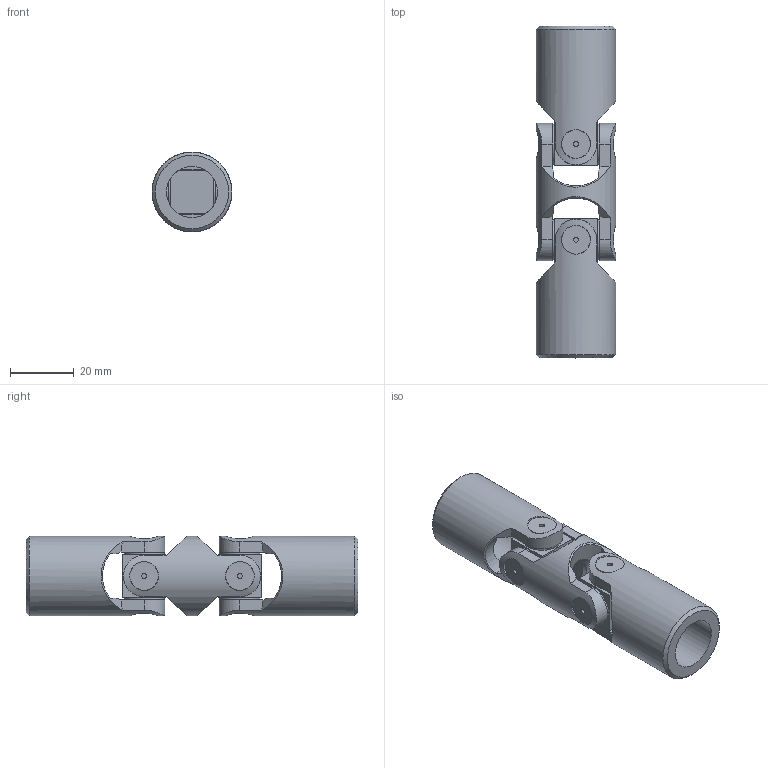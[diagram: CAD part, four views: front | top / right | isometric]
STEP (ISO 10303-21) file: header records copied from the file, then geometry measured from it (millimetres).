
FILE_DESCRIPTION(/* description */ (''),/* implementation_level */ '2;1');
FILE_NAME(/* name */ '\\SRV2016\Societa\Stefano\Disegni 3D\00Catalogo 3D\02Doppi GD-GBD\SGBD1600.stp',/* time_stamp */ '2021-11-22T17:10:10+01:00',/* author */ ('acquisti'),/* organization */ (''),/* preprocessor_version */ 'ST-DEVELOPER v15.6',/* originating_system */ 'Autodesk Inventor 2015',/* authorisation */ '');
FILE_SCHEMA (('AUTOMOTIVE_DESIGN { 1 0 10303 214 3 1 1 }'));
Length unit declared in the file: millimetre
Products named in the file (4): 04G MOD; 04G SFE; 1GB MOS; Ø25_1GBD-00_SGBD1600
Assembly tree (5 placements, depth 2):
  Ø25_1GBD-00_SGBD1600
    04G MOD
    04G SFE  x2
    1GB MOS  x2
Bounding box: 25 x 104 x 25 mm (x, y, z)
Volume: 30271.3 mm3; surface area: 15980.2 mm2
Topology: 5 solids, 5 shells, 163 faces, 389 edges, 254 vertices
Faces by surface type: plane 74, cylinder 63, cone 20, torus 6
Full cylindrical faces by diameter (mm): 1.5 x8, 12.5 x8, 13 x2, 16 x2, 25 x3
Entity records: 3824 total; most frequent: CARTESIAN_POINT 1320, ORIENTED_EDGE 500, DIRECTION 478, EDGE_CURVE 250, AXIS2_PLACEMENT_3D 212, VERTEX_POINT 176, EDGE_LOOP 150, FACE_OUTER_BOUND 113
